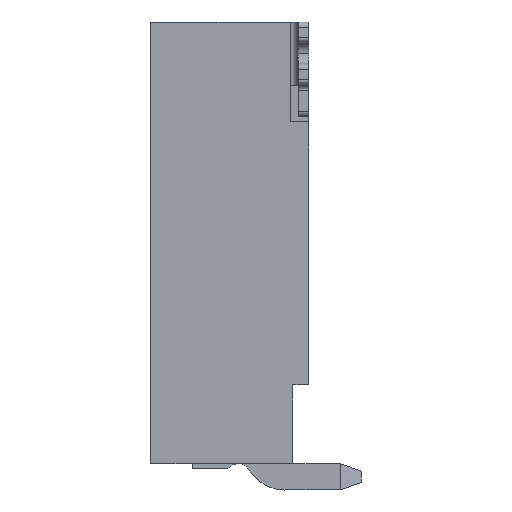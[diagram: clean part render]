
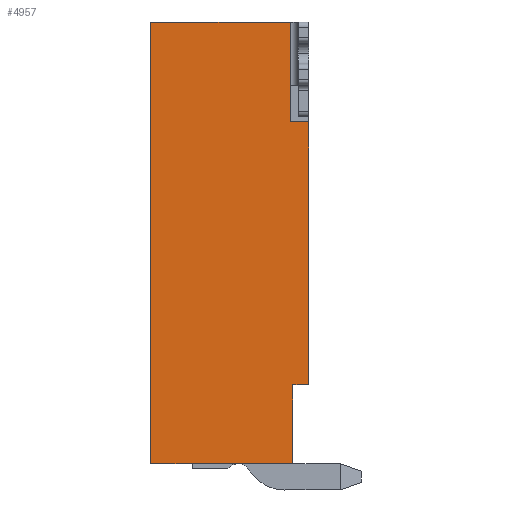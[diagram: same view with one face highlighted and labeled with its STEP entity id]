
A CAD part, left-side view. The second image highlights one B-rep face of the part: STEP entity #4957.
In plain terms, the highlighted planar face has unit normal (-1, 0, 0).
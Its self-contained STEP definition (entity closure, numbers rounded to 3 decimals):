
#2=DIRECTION('',(0.,0.,1.));
#3=VECTOR('',#2,1.9);
#4=CARTESIAN_POINT('',(-3.25,0.35,6.5));
#5=LINE('',#4,#3);
#6=DIRECTION('',(0.,0.,1.));
#7=VECTOR('',#6,5.);
#8=CARTESIAN_POINT('',(-3.25,0.,1.5));
#9=LINE('',#8,#7);
#10=DIRECTION('',(0.,-1.,0.));
#11=VECTOR('',#10,0.3);
#12=CARTESIAN_POINT('',(-3.25,0.3,1.5));
#13=LINE('',#12,#11);
#14=DIRECTION('',(0.,0.,1.));
#15=VECTOR('',#14,1.5);
#16=CARTESIAN_POINT('',(-3.25,0.3,0.));
#17=LINE('',#16,#15);
#18=DIRECTION('',(0.,-1.,0.));
#19=VECTOR('',#18,2.7);
#20=CARTESIAN_POINT('',(-3.25,3.,0.));
#21=LINE('',#20,#19);
#22=DIRECTION('',(0.,0.,-1.));
#23=VECTOR('',#22,8.4);
#24=CARTESIAN_POINT('',(-3.25,3.,8.4));
#25=LINE('',#24,#23);
#26=DIRECTION('',(0.,1.,0.));
#27=VECTOR('',#26,2.65);
#28=CARTESIAN_POINT('',(-3.25,0.35,8.4));
#29=LINE('',#28,#27);
#2766=DIRECTION('',(0.,-1.,0.));
#2767=VECTOR('',#2766,0.35);
#2768=CARTESIAN_POINT('',(-3.25,0.35,6.5));
#2769=LINE('',#2768,#2767);
#3790=CARTESIAN_POINT('',(-3.25,0.35,6.5));
#3791=CARTESIAN_POINT('',(-3.25,0.,6.5));
#3792=VERTEX_POINT('',#3790);
#3793=VERTEX_POINT('',#3791);
#3794=CARTESIAN_POINT('',(-3.25,0.,1.5));
#3795=VERTEX_POINT('',#3794);
#3796=CARTESIAN_POINT('',(-3.25,0.3,1.5));
#3797=VERTEX_POINT('',#3796);
#3798=CARTESIAN_POINT('',(-3.25,0.3,0.));
#3799=VERTEX_POINT('',#3798);
#3800=CARTESIAN_POINT('',(-3.25,3.,0.));
#3801=VERTEX_POINT('',#3800);
#3802=CARTESIAN_POINT('',(-3.25,3.,8.4));
#3803=VERTEX_POINT('',#3802);
#3804=CARTESIAN_POINT('',(-3.25,0.35,8.4));
#3805=VERTEX_POINT('',#3804);
#4934=CARTESIAN_POINT('',(-3.25,0.,0.));
#4935=DIRECTION('',(1.,0.,0.));
#4936=DIRECTION('',(0.,0.,-1.));
#4937=AXIS2_PLACEMENT_3D('',#4934,#4935,#4936);
#4938=PLANE('',#4937);
#4940=ORIENTED_EDGE('',*,*,#4939,.F.);
#4942=ORIENTED_EDGE('',*,*,#4941,.T.);
#4944=ORIENTED_EDGE('',*,*,#4943,.F.);
#4946=ORIENTED_EDGE('',*,*,#4945,.F.);
#4948=ORIENTED_EDGE('',*,*,#4947,.F.);
#4950=ORIENTED_EDGE('',*,*,#4949,.F.);
#4952=ORIENTED_EDGE('',*,*,#4951,.F.);
#4954=ORIENTED_EDGE('',*,*,#4953,.F.);
#4955=EDGE_LOOP('',(#4940,#4942,#4944,#4946,#4948,#4950,#4952,#4954));
#4956=FACE_OUTER_BOUND('',#4955,.F.);
#4939=EDGE_CURVE('',#3792,#3805,#5,.T.);
#4941=EDGE_CURVE('',#3792,#3793,#2769,.T.);
#4943=EDGE_CURVE('',#3795,#3793,#9,.T.);
#4945=EDGE_CURVE('',#3797,#3795,#13,.T.);
#4947=EDGE_CURVE('',#3799,#3797,#17,.T.);
#4949=EDGE_CURVE('',#3801,#3799,#21,.T.);
#4951=EDGE_CURVE('',#3803,#3801,#25,.T.);
#4953=EDGE_CURVE('',#3805,#3803,#29,.T.);
#4957=ADVANCED_FACE('',(#4956),#4938,.F.);
